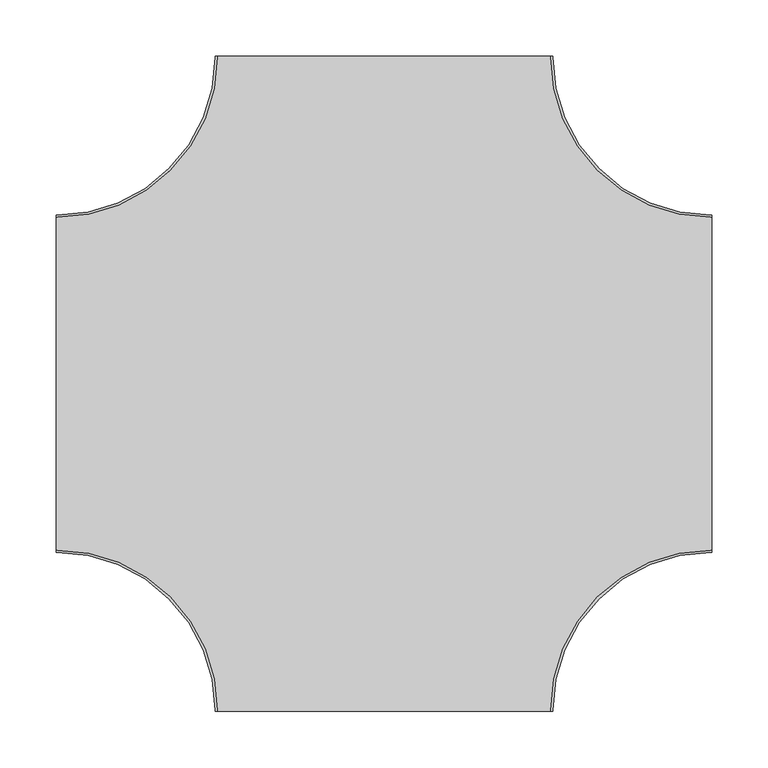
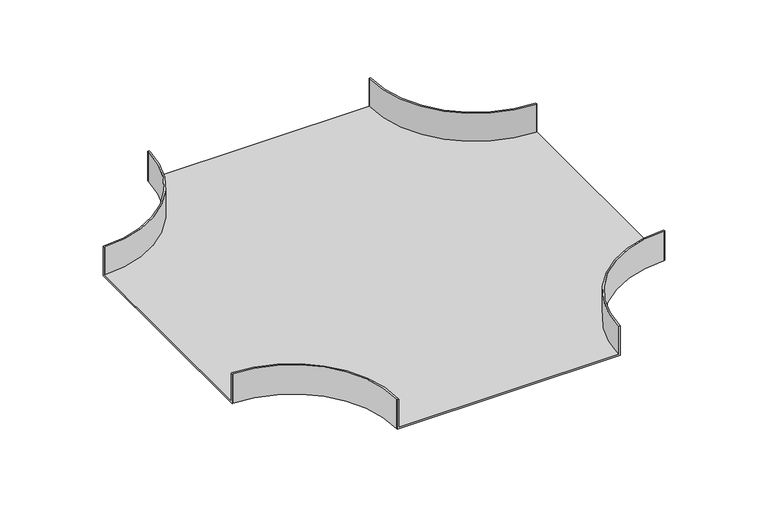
"""IFC4 building model written with IfcOpenShell, lengths in millimetres: cable carrier fitting geometry, BAKS_Horizontal cross over radius : CZKPJ_H42."""

from ifc_helpers import new_model, si_unit, frame, origin, place, context, project, spatial, polyline, circle_curve, source, transform, mapped, element, save
from ifc_brep_helpers import plane_surface, cylinder_surface, revolved_surface, advanced_brep


def cable_carrier_fitting_3c0e6721(model_context):
    return source(origin(), model_context, "Body", "AdvancedBrep", [
        advanced_brep(
        [(-150.0, -290.0, 21.0), (-150.0, -291.0, 21.0), (-148.0, -291.0, 21.0), (-148.0, -290.0, 21.0), (-290.0, -148.0, 21.0), (-291.0, -148.0, 21.0), (-291.0, -150.0, 21.0), (-290.0, -150.0, 21.0), (150.0, -290.0, 21.0), (290.0, -150.0, 21.0), (291.0, -150.0, 21.0), (291.0, -148.0, 21.0), (290.0, -148.0, 21.0), (148.0, -290.0, 21.0), (148.0, -291.0, 21.0), (150.0, -291.0, 21.0), (-290.0, 150.0, 21.0), (-291.0, 150.0, 21.0), (-291.0, 148.0, 21.0), (-290.0, 148.0, 21.0), (-148.0, 290.0, 21.0), (-148.0, 291.0, 21.0), (-150.0, 291.0, 21.0), (-150.0, 290.0, 21.0), (148.0, 290.0, 21.0), (290.0, 148.0, 21.0), (291.0, 148.0, 21.0), (291.0, 150.0, 21.0), (290.0, 150.0, 21.0), (150.0, 290.0, 21.0), (150.0, 291.0, 21.0), (148.0, 291.0, 21.0), (-150.0, -290.0, -21.0), (-290.0, -150.0, -21.0), (-291.0, -150.0, -21.0), (-291.0, 150.0, -21.0), (-290.0, 150.0, -21.0), (-150.0, 290.0, -21.0), (-150.0, 291.0, -21.0), (150.0, 291.0, -21.0), (150.0, 290.0, -21.0), (290.0, 150.0, -21.0), (291.0, 150.0, -21.0), (291.0, -150.0, -21.0), (290.0, -150.0, -21.0), (150.0, -290.0, -21.0), (150.0, -291.0, -21.0), (-150.0, -291.0, -21.0), (-150.0, -290.0, -19.0), (148.0, -291.0, -19.0), (-148.0, -291.0, -19.0), (-148.0, -290.0, -19.0), (-290.0, -148.0, -19.0), (-291.0, -148.0, -19.0), (-291.0, 148.0, -19.0), (-290.0, -150.0, -19.0), (150.0, -290.0, -19.0), (290.0, -150.0, -19.0), (291.0, 148.0, -19.0), (291.0, -148.0, -19.0), (290.0, -148.0, -19.0), (148.0, -290.0, -19.0), (290.0, 148.0, -19.0), (148.0, 290.0, -19.0), (148.0, 291.0, -19.0), (-148.0, 291.0, -19.0), (-148.0, 290.0, -19.0), (-290.0, 148.0, -19.0), (-290.0, 150.0, -19.0), (-150.0, 290.0, -19.0), (290.0, 150.0, -19.0), (150.0, 290.0, -19.0)],
        [
            (0, 1),
            (1, 2),
            (2, 3),
            (3, 4, circle_curve(frame((-290.0, -290.0, 21.0), z_axis=(0.0, 0.0, 1.0), x_axis=(1.0, 0.0, 0.0)), 142.0)),
            (4, 5),
            (5, 6),
            (6, 7),
            (7, 0, circle_curve(frame((-290.0, -290.0, 21.0), z_axis=(0.0, 0.0, -1.0), x_axis=(1.0, 0.0, 0.0)), 140.0)),
            (8, 9, circle_curve(frame((290.0, -290.0, 21.0), z_axis=(0.0, 0.0, -1.0), x_axis=(1.0, 0.0, 0.0)), 140.0)),
            (9, 10),
            (10, 11),
            (11, 12),
            (12, 13, circle_curve(frame((290.0, -290.0, 21.0), z_axis=(0.0, 0.0, 1.0), x_axis=(1.0, 0.0, 0.0)), 142.0)),
            (13, 14),
            (14, 15),
            (15, 8),
            (16, 17),
            (17, 18),
            (18, 19),
            (19, 20, circle_curve(frame((-290.0, 290.0, 21.0), z_axis=(0.0, 0.0, 1.0), x_axis=(1.0, 0.0, 0.0)), 142.0)),
            (20, 21),
            (21, 22),
            (22, 23),
            (23, 16, circle_curve(frame((-290.0, 290.0, 21.0), z_axis=(0.0, 0.0, -1.0), x_axis=(1.0, 0.0, 0.0)), 140.0)),
            (24, 25, circle_curve(frame((290.0, 290.0, 21.0), z_axis=(0.0, 0.0, 1.0), x_axis=(1.0, 0.0, 0.0)), 142.0)),
            (25, 26),
            (26, 27),
            (27, 28),
            (28, 29, circle_curve(frame((290.0, 290.0, 21.0), z_axis=(0.0, 0.0, -1.0), x_axis=(1.0, 0.0, 0.0)), 140.0)),
            (29, 30),
            (30, 31),
            (31, 24),
            (32, 33, circle_curve(frame((-290.0, -290.0, -21.0), z_axis=(0.0, 0.0, 1.0), x_axis=(1.0, 0.0, 0.0)), 140.0)),
            (33, 34),
            (34, 35),
            (35, 36),
            (36, 37, circle_curve(frame((-290.0, 290.0, -21.0), z_axis=(0.0, 0.0, 1.0), x_axis=(1.0, 0.0, 0.0)), 140.0)),
            (37, 38),
            (38, 39),
            (39, 40),
            (40, 41, circle_curve(frame((290.0, 290.0, -21.0), z_axis=(0.0, 0.0, 1.0), x_axis=(1.0, 0.0, 0.0)), 140.0)),
            (41, 42),
            (42, 43),
            (43, 44),
            (44, 45, circle_curve(frame((290.0, -290.0, -21.0), z_axis=(0.0, 0.0, 1.0), x_axis=(1.0, 0.0, 0.0)), 140.0)),
            (45, 46),
            (46, 47),
            (47, 32),
            (47, 1),
            (0, 48),
            (48, 32),
            (46, 15),
            (14, 49),
            (49, 50),
            (50, 2),
            (50, 51),
            (51, 3),
            (51, 52, circle_curve(frame((-290.0, -290.0, -19.0), z_axis=(0.0, 0.0, 1.0), x_axis=(1.0, 0.0, 0.0)), 142.0)),
            (52, 4),
            (52, 53),
            (53, 5),
            (53, 54),
            (54, 18),
            (17, 35),
            (34, 6),
            (33, 55),
            (55, 7),
            (8, 56),
            (56, 45),
            (44, 57),
            (57, 9),
            (43, 10),
            (42, 27),
            (26, 58),
            (58, 59),
            (59, 11),
            (59, 60),
            (60, 12),
            (60, 61, circle_curve(frame((290.0, -290.0, -19.0), z_axis=(0.0, 0.0, 1.0), x_axis=(1.0, 0.0, 0.0)), 142.0)),
            (61, 13),
            (61, 49),
            (58, 62),
            (62, 63, circle_curve(frame((290.0, 290.0, -19.0), z_axis=(0.0, 0.0, -1.0), x_axis=(1.0, 0.0, 0.0)), 142.0)),
            (63, 64),
            (64, 65),
            (65, 66),
            (66, 67, circle_curve(frame((-290.0, 290.0, -19.0), z_axis=(0.0, 0.0, -1.0), x_axis=(1.0, 0.0, 0.0)), 142.0)),
            (67, 54),
            (16, 68),
            (68, 36),
            (67, 19),
            (66, 20),
            (65, 21),
            (64, 31),
            (30, 39),
            (38, 22),
            (37, 69),
            (69, 23),
            (24, 63),
            (62, 25),
            (41, 70),
            (70, 28),
            (40, 71),
            (71, 29),
        ],
        [
            plane_surface(frame((-150.0, -290.0, 21.0), z_axis=(0.0, 0.0, 1.0), x_axis=(0.0, -1.0, 0.0))),
            plane_surface(frame((-150.0, -290.0, -21.0), z_axis=(0.0, 0.0, -1.0), x_axis=(0.0, 1.0, 0.0))),
            plane_surface(frame((-150.0, -290.0, 21.0), z_axis=(-1.0, 0.0, 0.0), x_axis=(0.0, 0.0, -1.0))),
            plane_surface(frame((-150.0, -291.0, 21.0), z_axis=(0.0, -1.0, 0.0), x_axis=(0.0, 0.0, -1.0))),
            plane_surface(frame((-148.0, -291.0, 21.0), z_axis=(1.0, 0.0, 0.0), x_axis=(0.0, 0.0, -1.0))),
            cylinder_surface(frame((-290.0, -290.0, -21.0), z_axis=(0.0, 0.0, 1.0), x_axis=(1.0, 0.0, 0.0)), 142.0),
            plane_surface(frame((-290.0, -148.0, 21.0), z_axis=(0.0, 1.0, 0.0), x_axis=(0.0, 0.0, -1.0))),
            plane_surface(frame((-291.0, -148.0, 21.0), z_axis=(-1.0, 0.0, 0.0), x_axis=(0.0, 0.0, -1.0))),
            plane_surface(frame((-291.0, -150.0, 21.0), z_axis=(2.741007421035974e-12, -1.0, 0.0), x_axis=(0.0, 0.0, -1.0))),
            revolved_surface(polyline([(-150.0, -290.0, -21.0), (-150.0, -290.0, 21.0)]), (-290.0, -290.0, -21.0), (0.0, 0.0, -1.0)),
            revolved_surface(polyline([(430.0, -290.0, -21.0), (430.0, -290.0, 21.0)]), (290.0, -290.0, 0.0), (0.0, 0.0, -1.0)),
            plane_surface(frame((290.0, -150.0, 21.0), z_axis=(-2.741007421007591e-12, -1.0, 0.0), x_axis=(0.0, 0.0, -1.0))),
            plane_surface(frame((291.0, -150.0, 21.0), z_axis=(1.0, 0.0, 0.0), x_axis=(0.0, 0.0, -1.0))),
            plane_surface(frame((291.0, -148.0, 21.0), z_axis=(0.0, 1.0, 0.0), x_axis=(0.0, 0.0, -1.0))),
            cylinder_surface(frame((290.0, -290.0, 0.0), z_axis=(0.0, 0.0, 1.0), x_axis=(1.0, 0.0, 0.0)), 142.0),
            plane_surface(frame((148.0, -290.0, 21.0), z_axis=(-1.0, 0.0, 0.0), x_axis=(0.0, 0.0, -1.0))),
            plane_surface(frame((150.0, -291.0, 21.0), z_axis=(1.0, 0.0, 0.0), x_axis=(0.0, 0.0, -1.0))),
            plane_surface(frame((-150.0, -290.0, -19.0), z_axis=(0.0, 0.0, 1.0), x_axis=(1.9796164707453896e-12, -1.0, 0.0))),
            plane_surface(frame((-290.0, 150.0, 21.0), z_axis=(5.209606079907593e-11, 1.0, 0.0), x_axis=(0.0, 0.0, -1.0))),
            plane_surface(frame((-291.0, 148.0, 21.0), z_axis=(-5.446483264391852e-11, -1.0, 0.0), x_axis=(0.0, 0.0, -1.0))),
            cylinder_surface(frame((-290.0, 290.0, 0.0), z_axis=(0.0, 0.0, 1.0), x_axis=(1.0, 0.0, 0.0)), 142.0),
            plane_surface(frame((-148.0, 290.0, 21.0), z_axis=(1.0, -1.9796164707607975e-12, 0.0), x_axis=(0.0, 0.0, -1.0))),
            plane_surface(frame((-148.0, 291.0, 21.0), z_axis=(0.0, 1.0, 0.0), x_axis=(0.0, 0.0, -1.0))),
            plane_surface(frame((-150.0, 291.0, 21.0), z_axis=(-1.0, 1.979616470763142e-12, 0.0), x_axis=(0.0, 0.0, -1.0))),
            revolved_surface(polyline([(-150.0, 290.0, -21.0), (-150.0, 290.0, 21.0)]), (-290.0, 290.0, 0.0), (0.0, 0.0, -1.0)),
            cylinder_surface(frame((290.0, 290.0, 0.0), z_axis=(0.0, 0.0, 1.0), x_axis=(1.0, 0.0, 0.0)), 142.0),
            plane_surface(frame((290.0, 148.0, 21.0), z_axis=(0.0, -1.0, 0.0), x_axis=(0.0, 0.0, -1.0))),
            plane_surface(frame((291.0, 150.0, 21.0), z_axis=(0.0, 1.0, 0.0), x_axis=(0.0, 0.0, -1.0))),
            revolved_surface(polyline([(430.0, 290.0, -21.0), (430.0, 290.0, 21.0)]), (290.0, 290.0, 0.0), (0.0, 0.0, -1.0)),
            plane_surface(frame((150.0, 290.0, 21.0), z_axis=(1.0, 2.5464297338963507e-11, 0.0), x_axis=(0.0, 0.0, -1.0))),
            plane_surface(frame((148.0, 291.0, 21.0), z_axis=(-1.0, -2.6056490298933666e-11, 0.0), x_axis=(0.0, 0.0, -1.0))),
        ],
        [
            (0, [[1, 2, 3, 4, 5, 6, 7, 8]]),
            (0, [[9, 10, 11, 12, 13, 14, 15, 16]]),
            (0, [[17, 18, 19, 20, 21, 22, 23, 24]]),
            (0, [[25, 26, 27, 28, 29, 30, 31, 32]]),
            (1, [[33, 34, 35, 36, 37, 38, 39, 40, 41, 42, 43, 44, 45, 46, 47, 48]]),
            (2, [[49, -1, 50, 51, -48]]),
            (3, [[-2, -49, -47, 52, -15, 53, 54, 55]]),
            (4, [[-3, -55, 56, 57]]),
            (5, [[-4, -57, 58, 59]]),
            (6, [[-5, -59, 60, 61]]),
            (7, [[-6, -61, 62, 63, -18, 64, -35, 65]]),
            (8, [[-7, -65, -34, 66, 67]]),
            (9, [[-8, -67, -66, -33, -51, -50]]),
            (10, [[-9, 68, 69, -45, 70, 71]]),
            (11, [[72, -10, -71, -70, -44]]),
            (12, [[-11, -72, -43, 73, -27, 74, 75, 76]]),
            (13, [[-12, -76, 77, 78]]),
            (14, [[-13, -78, 79, 80]]),
            (15, [[-14, -80, 81, -53]]),
            (16, [[-16, -52, -46, -69, -68]]),
            (17, [[-54, -81, -79, -77, -75, 82, 83, 84, 85, 86, 87, 88, -62, -60, -58, -56]]),
            (18, [[-64, -17, 89, 90, -36]]),
            (19, [[-19, -63, -88, 91]]),
            (20, [[-20, -91, -87, 92]]),
            (21, [[-21, -92, -86, 93]]),
            (22, [[-22, -93, -85, 94, -31, 95, -39, 96]]),
            (23, [[-23, -96, -38, 97, 98]]),
            (24, [[-24, -98, -97, -37, -90, -89]]),
            (25, [[-25, 99, -83, 100]]),
            (26, [[-26, -100, -82, -74]]),
            (27, [[-28, -73, -42, 101, 102]]),
            (28, [[-29, -102, -101, -41, 103, 104]]),
            (29, [[-95, -30, -104, -103, -40]]),
            (30, [[-32, -94, -84, -99]]),
        ],
    ),
    ])


if __name__ == "__main__":
    model = new_model("IFC4")
    model_context = context("Model", 3, world=origin())
    ifc_project = project(units=[si_unit("LENGTHUNIT", "METRE", prefix="MILLI")], contexts=[model_context])
    site = spatial("IfcSite", under=ifc_project)
    building = spatial("IfcBuilding", under=site)
    placement = place(None, origin())
    cable_carrier_fitting_shape = cable_carrier_fitting_3c0e6721(model_context)
    element("IfcCableCarrierFitting", 1, ObjectType="BAKS_Horizontal cross over radius : CZKPJ_H42", at=placement, inside=building, context=model_context, shape_type="MappedRepresentation", body=[
        mapped(cable_carrier_fitting_shape, transform((0.0, 0.0, 0.0), x_axis=(1.0, 0.0, 0.0), y_axis=(0.0, 1.0, 0.0), z_axis=(0.0, 0.0, 1.0))),
    ])
    save(model, "model.ifc")
